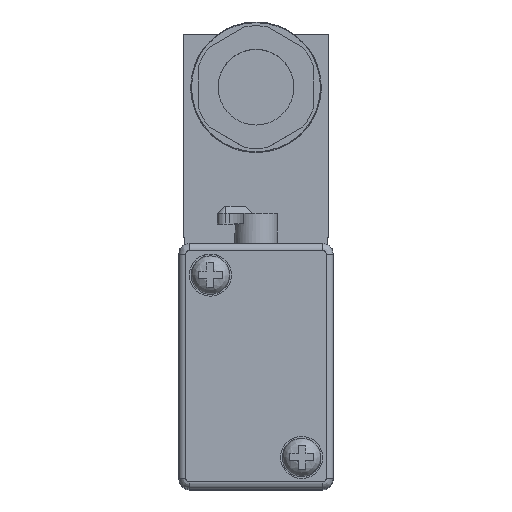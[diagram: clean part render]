
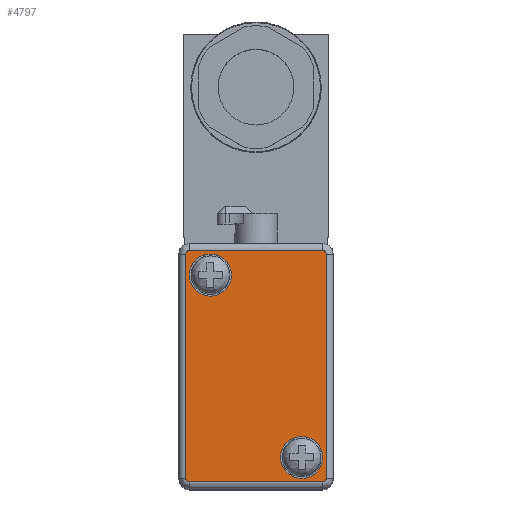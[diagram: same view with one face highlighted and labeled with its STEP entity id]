
A CAD part, top view. The second image highlights one B-rep face of the part: STEP entity #4797.
In plain terms, the highlighted planar face has unit normal (0, 0, 1).
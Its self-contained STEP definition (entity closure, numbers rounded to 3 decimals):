
#90=FACE_BOUND('',#628,.T.);
#91=FACE_BOUND('',#629,.T.);
#349=FACE_OUTER_BOUND('',#627,.T.);
#627=EDGE_LOOP('',(#3825,#3826,#3827,#3828,#3829,#3830,#3831,#3832));
#628=EDGE_LOOP('',(#3833));
#629=EDGE_LOOP('',(#3834));
#809=CIRCLE('',#5195,0.5);
#810=CIRCLE('',#5196,0.5);
#811=CIRCLE('',#5197,0.5);
#812=CIRCLE('',#5198,0.5);
#813=CIRCLE('',#5199,3.);
#814=CIRCLE('',#5200,3.);
#1240=LINE('',#7671,#1711);
#1241=LINE('',#7675,#1712);
#1242=LINE('',#7679,#1713);
#1243=LINE('',#7682,#1714);
#1711=VECTOR('',#6310,1000.);
#1712=VECTOR('',#6313,1000.);
#1713=VECTOR('',#6316,1000.);
#1714=VECTOR('',#6319,1000.);
#2116=VERTEX_POINT('',#7667);
#2117=VERTEX_POINT('',#7668);
#2118=VERTEX_POINT('',#7670);
#2119=VERTEX_POINT('',#7672);
#2120=VERTEX_POINT('',#7674);
#2121=VERTEX_POINT('',#7676);
#2122=VERTEX_POINT('',#7678);
#2123=VERTEX_POINT('',#7680);
#2124=VERTEX_POINT('',#7683);
#2125=VERTEX_POINT('',#7685);
#2709=EDGE_CURVE('',#2116,#2117,#809,.T.);
#2710=EDGE_CURVE('',#2117,#2118,#1240,.T.);
#2711=EDGE_CURVE('',#2118,#2119,#810,.T.);
#2712=EDGE_CURVE('',#2119,#2120,#1241,.T.);
#2713=EDGE_CURVE('',#2120,#2121,#811,.T.);
#2714=EDGE_CURVE('',#2121,#2122,#1242,.T.);
#2715=EDGE_CURVE('',#2122,#2123,#812,.T.);
#2716=EDGE_CURVE('',#2123,#2116,#1243,.T.);
#2717=EDGE_CURVE('',#2124,#2124,#813,.T.);
#2718=EDGE_CURVE('',#2125,#2125,#814,.T.);
#3825=ORIENTED_EDGE('',*,*,#2709,.T.);
#3826=ORIENTED_EDGE('',*,*,#2710,.T.);
#3827=ORIENTED_EDGE('',*,*,#2711,.T.);
#3828=ORIENTED_EDGE('',*,*,#2712,.T.);
#3829=ORIENTED_EDGE('',*,*,#2713,.T.);
#3830=ORIENTED_EDGE('',*,*,#2714,.T.);
#3831=ORIENTED_EDGE('',*,*,#2715,.T.);
#3832=ORIENTED_EDGE('',*,*,#2716,.T.);
#3833=ORIENTED_EDGE('',*,*,#2717,.F.);
#3834=ORIENTED_EDGE('',*,*,#2718,.F.);
#4292=PLANE('',#5194);
#4797=ADVANCED_FACE('',(#349,#90,#91),#4292,.T.);
#5194=AXIS2_PLACEMENT_3D('',#7666,#6306,#6307);
#5195=AXIS2_PLACEMENT_3D('',#7669,#6308,#6309);
#5196=AXIS2_PLACEMENT_3D('',#7673,#6311,#6312);
#5197=AXIS2_PLACEMENT_3D('',#7677,#6314,#6315);
#5198=AXIS2_PLACEMENT_3D('',#7681,#6317,#6318);
#5199=AXIS2_PLACEMENT_3D('',#7684,#6320,#6321);
#5200=AXIS2_PLACEMENT_3D('',#7686,#6322,#6323);
#6306=DIRECTION('center_axis',(0.,0.,1.));
#6307=DIRECTION('ref_axis',(1.,0.,0.));
#6308=DIRECTION('center_axis',(0.,0.,1.));
#6309=DIRECTION('ref_axis',(1.,0.,0.));
#6310=DIRECTION('',(1.,0.,0.));
#6311=DIRECTION('center_axis',(0.,0.,1.));
#6312=DIRECTION('ref_axis',(1.,0.,0.));
#6313=DIRECTION('',(0.,1.,0.));
#6314=DIRECTION('center_axis',(0.,0.,1.));
#6315=DIRECTION('ref_axis',(1.,0.,0.));
#6316=DIRECTION('',(-1.,0.,0.));
#6317=DIRECTION('center_axis',(0.,0.,1.));
#6318=DIRECTION('ref_axis',(1.,0.,0.));
#6319=DIRECTION('',(0.,-1.,0.));
#6320=DIRECTION('center_axis',(0.,0.,1.));
#6321=DIRECTION('ref_axis',(1.,0.,0.));
#6322=DIRECTION('center_axis',(0.,0.,1.));
#6323=DIRECTION('ref_axis',(1.,0.,0.));
#7666=CARTESIAN_POINT('Origin',(-9.5,33.5,117.6));
#7667=CARTESIAN_POINT('',(-10.,1.5,117.6));
#7668=CARTESIAN_POINT('',(-9.5,1.,117.6));
#7669=CARTESIAN_POINT('Origin',(-9.5,1.5,117.6));
#7670=CARTESIAN_POINT('',(9.5,1.,117.6));
#7671=CARTESIAN_POINT('',(9.5,1.,117.6));
#7672=CARTESIAN_POINT('',(10.,1.5,117.6));
#7673=CARTESIAN_POINT('Origin',(9.5,1.5,117.6));
#7674=CARTESIAN_POINT('',(10.,33.5,117.6));
#7675=CARTESIAN_POINT('',(10.,33.5,117.6));
#7676=CARTESIAN_POINT('',(9.5,34.,117.6));
#7677=CARTESIAN_POINT('Origin',(9.5,33.5,117.6));
#7678=CARTESIAN_POINT('',(-9.5,34.,117.6));
#7679=CARTESIAN_POINT('',(-9.5,34.,117.6));
#7680=CARTESIAN_POINT('',(-10.,33.5,117.6));
#7681=CARTESIAN_POINT('Origin',(-9.5,33.5,117.6));
#7682=CARTESIAN_POINT('',(-10.,1.5,117.6));
#7683=CARTESIAN_POINT('',(-9.5,30.5,117.6));
#7684=CARTESIAN_POINT('Origin',(-6.5,30.5,117.6));
#7685=CARTESIAN_POINT('',(3.5,4.5,117.6));
#7686=CARTESIAN_POINT('Origin',(6.5,4.5,117.6));
